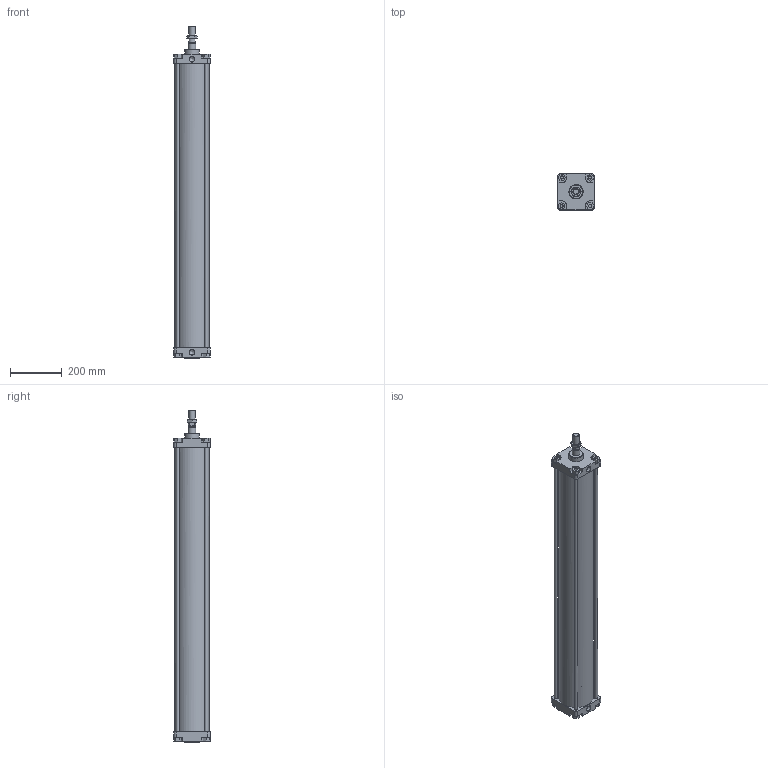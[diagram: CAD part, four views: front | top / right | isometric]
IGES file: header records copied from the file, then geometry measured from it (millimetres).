
Global section: file name: 1304_125_1000_01A; native system: Autodesk Inventor 2014; preprocessor: unknown; author: A. Manieri; date: 20161124.142550; units: millimetre
Bounding box: 140 x 140 x 1280 mm (x, y, z)
Volume: 5558990.1 mm3; surface area: 1376847.2 mm2
Topology: 9 solids, 9 shells, 175 faces, 440 edges, 295 vertices
Faces by surface type: bspline 175
